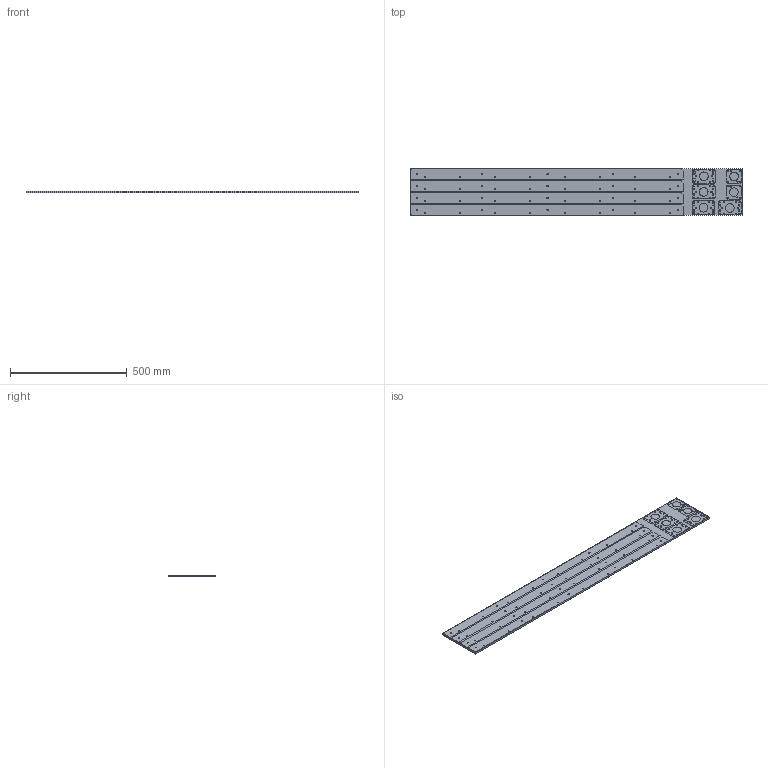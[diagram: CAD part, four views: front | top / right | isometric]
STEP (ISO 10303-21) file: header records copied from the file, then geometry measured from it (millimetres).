
FILE_DESCRIPTION(/* description */ (''),/* implementation_level */ '2;1');
FILE_NAME(/* name */ 'C:/Users/jakob/Documents/GitHub/fabricatable-machines/humphrey-large-format-cnc/humphrey_v3/parts/alu/step/Mega_nuts_long_motor_plates_2_motor_spacers.step',/* time_stamp */ '2018-08-17T09:06:44+02:00',/* author */ ('jaknil'),/* organization */ (''),/* preprocessor_version */ 'ST-DEVELOPER v17',/* originating_system */ 'Autodesk Translation Framework v7.1.0.215',/* authorisation */ '');
FILE_SCHEMA (('AUTOMOTIVE_DESIGN { 1 0 10303 214 3 1 1 }'));
Length unit declared in the file: millimetre
Products named in the file (7): Y_rail_holder_alu v1; layout; stock; long; missing motor plate; Motor_spacer nema24; Motor_plate_y v3
Assembly tree (13 placements, depth 4):
  Y_rail_holder_alu v1
    layout
      long  x4
      stock
      missing motor plate
        Motor_plate_y v3  x4
        Motor_spacer nema24  x2
Bounding box: 1421.65 x 200 x 8 mm (x, y, z)
Surface area: 1159642.5 mm2
Topology: 11 solids, 11 shells, 272 faces, 750 edges, 500 vertices
Faces by surface type: cylinder 170, plane 102
Full cylindrical faces by diameter (mm): 4.2 x16, 4.4 x32, 4.5 x4, 5 x28, 5.2 x8, 37 x6
Entity records: 2972 total; most frequent: DIRECTION 517, CARTESIAN_POINT 466, ORIENTED_EDGE 438, EDGE_CURVE 219, AXIS2_PLACEMENT_3D 197, VERTEX_POINT 146, EDGE_LOOP 143, LINE 123
